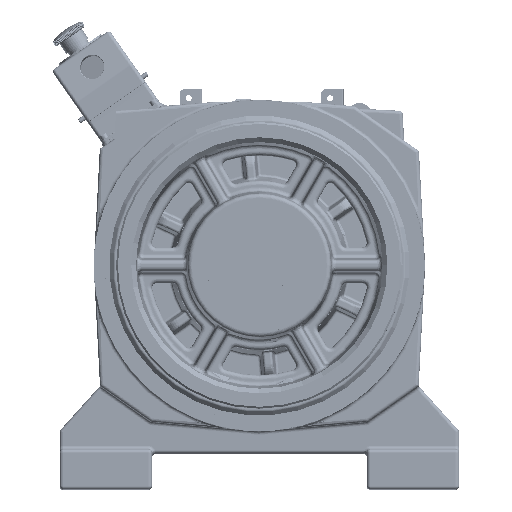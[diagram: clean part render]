
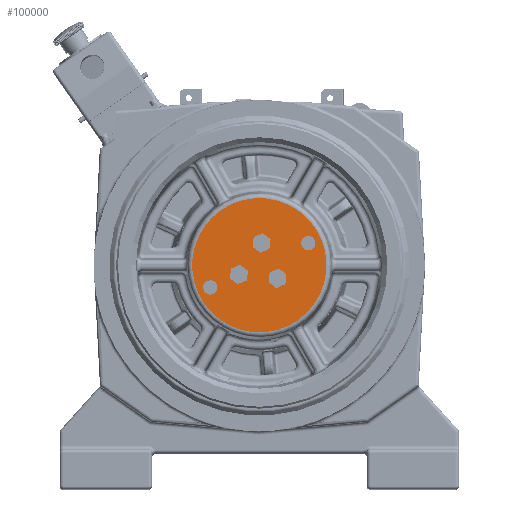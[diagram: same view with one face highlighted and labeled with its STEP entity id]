
A CAD part, top view. The second image highlights one B-rep face of the part: STEP entity #100000.
In plain terms, the highlighted planar face has unit normal (0, 0, 1).
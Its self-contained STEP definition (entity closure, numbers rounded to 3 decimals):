
#920 = CARTESIAN_POINT ( 'NONE',  ( -10.913, 235.405, 454.111 ) ) ;
#1656 = EDGE_CURVE ( 'NONE', #27240, #93101, #60338, .T. ) ;
#1860 = VERTEX_POINT ( 'NONE', #33721 ) ;
#2696 = DIRECTION ( 'NONE',  ( 0., 0., 1. ) ) ;
#5824 = DIRECTION ( 'NONE',  ( 0., 0., -1. ) ) ;
#5942 = AXIS2_PLACEMENT_3D ( 'NONE', #105826, #208541, #184840 ) ;
#6191 = CARTESIAN_POINT ( 'NONE',  ( -14.204, 242.697, 454.111 ) ) ;
#7182 = CIRCLE ( 'NONE', #129102, 8. ) ;
#7597 = EDGE_CURVE ( 'NONE', #69569, #133690, #206544, .T. ) ;
#8188 = FACE_BOUND ( 'NONE', #254417, .T. ) ;
#10527 = CARTESIAN_POINT ( 'NONE',  ( 23.479, 274.676, 454.111 ) ) ;
#11805 = AXIS2_PLACEMENT_3D ( 'NONE', #76365, #110656, #52735 ) ;
#12990 = EDGE_CURVE ( 'NONE', #93101, #27240, #223141, .T. ) ;
#15092 = EDGE_LOOP ( 'NONE', ( #245631, #208973 ) ) ;
#21111 = AXIS2_PLACEMENT_3D ( 'NONE', #106684, #187001, #247627 ) ;
#23259 = DIRECTION ( 'NONE',  ( 0., 0., -1. ) ) ;
#24685 = DIRECTION ( 'NONE',  ( 0., 0., -1. ) ) ;
#24831 = VERTEX_POINT ( 'NONE', #139563 ) ;
#27240 = VERTEX_POINT ( 'NONE', #144513 ) ;
#28935 = DIRECTION ( 'NONE',  ( 0., 0., -1. ) ) ;
#33721 = CARTESIAN_POINT ( 'NONE',  ( -32.013, 282.167, 454.111 ) ) ;
#34355 = FACE_BOUND ( 'NONE', #15092, .T. ) ;
#37992 = AXIS2_PLACEMENT_3D ( 'NONE', #219981, #238428, #177862 ) ;
#38270 = PLANE ( 'NONE',  #37992 ) ;
#39526 = CIRCLE ( 'NONE', #5942, 8. ) ;
#39830 = CARTESIAN_POINT ( 'NONE',  ( 20.189, 281.968, 454.111 ) ) ;
#48459 = CARTESIAN_POINT ( 'NONE',  ( 26.769, 267.384, 454.111 ) ) ;
#51767 = VERTEX_POINT ( 'NONE', #6191 ) ;
#52735 = DIRECTION ( 'NONE',  ( -0.411, 0.912, 0. ) ) ;
#57464 = VERTEX_POINT ( 'NONE', #225098 ) ;
#60338 = CIRCLE ( 'NONE', #249638, 8. ) ;
#64215 = DIRECTION ( 'NONE',  ( -0.411, 0.912, 0. ) ) ;
#66349 = CARTESIAN_POINT ( 'NONE',  ( 23.479, 274.676, 454.111 ) ) ;
#66776 = ORIENTED_EDGE ( 'NONE', *, *, #12990, .T. ) ;
#69569 = VERTEX_POINT ( 'NONE', #48459 ) ;
#72448 = EDGE_LOOP ( 'NONE', ( #136189, #130684 ) ) ;
#76365 = CARTESIAN_POINT ( 'NONE',  ( -85.902, 225.322, 454.111 ) ) ;
#79496 = DIRECTION ( 'NONE',  ( -0.411, 0.912, 0. ) ) ;
#81201 = DIRECTION ( 'NONE',  ( -0.411, 0.912, 0. ) ) ;
#84871 = VERTEX_POINT ( 'NONE', #226405 ) ;
#85579 = DIRECTION ( 'NONE',  ( -0.411, 0.912, 0. ) ) ;
#86195 = ORIENTED_EDGE ( 'NONE', *, *, #101026, .T. ) ;
#87400 = DIRECTION ( 'NONE',  ( -0.411, 0.912, 0. ) ) ;
#87660 = EDGE_CURVE ( 'NONE', #146230, #84871, #181743, .T. ) ;
#91908 = EDGE_CURVE ( 'NONE', #133690, #69569, #128864, .T. ) ;
#93101 = VERTEX_POINT ( 'NONE', #222775 ) ;
#100000 = ADVANCED_FACE ( 'NONE', ( #34355, #114617, #8188, #159398, #197599, #176509 ), #38270, .T. ) ;
#101026 = EDGE_CURVE ( 'NONE', #84871, #146230, #181428, .T. ) ;
#104071 = ORIENTED_EDGE ( 'NONE', *, *, #1656, .T. ) ;
#105826 = CARTESIAN_POINT ( 'NONE',  ( -28.722, 274.875, 454.111 ) ) ;
#106641 = DIRECTION ( 'NONE',  ( 0., 0., 1. ) ) ;
#106684 = CARTESIAN_POINT ( 'NONE',  ( -85.902, 225.322, 454.111 ) ) ;
#109842 = AXIS2_PLACEMENT_3D ( 'NONE', #10527, #28935, #208063 ) ;
#110656 = DIRECTION ( 'NONE',  ( 0., 0., -1. ) ) ;
#114056 = ORIENTED_EDGE ( 'NONE', *, *, #213229, .T. ) ;
#114617 = FACE_BOUND ( 'NONE', #72448, .T. ) ;
#122111 = DIRECTION ( 'NONE',  ( 0., 0., -1. ) ) ;
#123495 = ORIENTED_EDGE ( 'NONE', *, *, #253185, .T. ) ;
#124706 = DIRECTION ( 'NONE',  ( -0.411, 0.912, 0. ) ) ;
#128864 = CIRCLE ( 'NONE', #221390, 8. ) ;
#129102 = AXIS2_PLACEMENT_3D ( 'NONE', #179568, #259938, #79496 ) ;
#130684 = ORIENTED_EDGE ( 'NONE', *, *, #91908, .T. ) ;
#133690 = VERTEX_POINT ( 'NONE', #39830 ) ;
#136189 = ORIENTED_EDGE ( 'NONE', *, *, #7597, .T. ) ;
#137899 = CIRCLE ( 'NONE', #11805, 8. ) ;
#139563 = CARTESIAN_POINT ( 'NONE',  ( -25.432, 267.583, 454.111 ) ) ;
#140017 = VERTEX_POINT ( 'NONE', #183293 ) ;
#142875 = EDGE_CURVE ( 'NONE', #57464, #140017, #137899, .T. ) ;
#143857 = AXIS2_PLACEMENT_3D ( 'NONE', #167114, #207948, #147354 ) ;
#144513 = CARTESIAN_POINT ( 'NONE',  ( -50.709, 232.425, 454.111 ) ) ;
#144883 = CARTESIAN_POINT ( 'NONE',  ( -31.212, 249.999, 454.111 ) ) ;
#146230 = VERTEX_POINT ( 'NONE', #172481 ) ;
#147354 = DIRECTION ( 'NONE',  ( -0.411, 0.912, 0. ) ) ;
#151110 = ORIENTED_EDGE ( 'NONE', *, *, #185863, .T. ) ;
#159398 = FACE_BOUND ( 'NONE', #207711, .T. ) ;
#161987 = CARTESIAN_POINT ( 'NONE',  ( -31.212, 249.999, 454.111 ) ) ;
#167114 = CARTESIAN_POINT ( 'NONE',  ( -10.913, 235.405, 454.111 ) ) ;
#172481 = CARTESIAN_POINT ( 'NONE',  ( -0.366, 181.636, 454.111 ) ) ;
#176509 = FACE_OUTER_BOUND ( 'NONE', #176946, .T. ) ;
#176946 = EDGE_LOOP ( 'NONE', ( #86195, #205673 ) ) ;
#177599 = AXIS2_PLACEMENT_3D ( 'NONE', #161987, #2696, #85579 ) ;
#177862 = DIRECTION ( 'NONE',  ( -0.411, 0.912, 0. ) ) ;
#179568 = CARTESIAN_POINT ( 'NONE',  ( -28.722, 274.875, 454.111 ) ) ;
#181428 = CIRCLE ( 'NONE', #210758, 75. ) ;
#181439 = CARTESIAN_POINT ( 'NONE',  ( -53.999, 239.717, 454.111 ) ) ;
#181743 = CIRCLE ( 'NONE', #177599, 75. ) ;
#183293 = CARTESIAN_POINT ( 'NONE',  ( -89.192, 232.614, 454.111 ) ) ;
#184840 = DIRECTION ( 'NONE',  ( -0.411, 0.912, 0. ) ) ;
#185863 = EDGE_CURVE ( 'NONE', #24831, #1860, #39526, .T. ) ;
#187001 = DIRECTION ( 'NONE',  ( 0., 0., -1. ) ) ;
#194799 = EDGE_LOOP ( 'NONE', ( #114056, #123495 ) ) ;
#197599 = FACE_BOUND ( 'NONE', #194799, .T. ) ;
#197754 = VERTEX_POINT ( 'NONE', #247701 ) ;
#205263 = ORIENTED_EDGE ( 'NONE', *, *, #225761, .T. ) ;
#205673 = ORIENTED_EDGE ( 'NONE', *, *, #87660, .T. ) ;
#206544 = CIRCLE ( 'NONE', #109842, 8. ) ;
#206856 = AXIS2_PLACEMENT_3D ( 'NONE', #920, #23259, #81201 ) ;
#207711 = EDGE_LOOP ( 'NONE', ( #151110, #205263 ) ) ;
#207948 = DIRECTION ( 'NONE',  ( 0., 0., -1. ) ) ;
#208063 = DIRECTION ( 'NONE',  ( -0.411, 0.912, 0. ) ) ;
#208541 = DIRECTION ( 'NONE',  ( 0., 0., -1. ) ) ;
#208973 = ORIENTED_EDGE ( 'NONE', *, *, #251611, .T. ) ;
#210758 = AXIS2_PLACEMENT_3D ( 'NONE', #144883, #106641, #223934 ) ;
#213229 = EDGE_CURVE ( 'NONE', #197754, #51767, #240472, .T. ) ;
#218986 = AXIS2_PLACEMENT_3D ( 'NONE', #260463, #24685, #124706 ) ;
#219981 = CARTESIAN_POINT ( 'NONE',  ( -99.575, 219.153, 454.111 ) ) ;
#221390 = AXIS2_PLACEMENT_3D ( 'NONE', #66349, #5824, #87400 ) ;
#222775 = CARTESIAN_POINT ( 'NONE',  ( -57.29, 247.009, 454.111 ) ) ;
#223141 = CIRCLE ( 'NONE', #218986, 8. ) ;
#223934 = DIRECTION ( 'NONE',  ( -0.411, 0.912, 0. ) ) ;
#225098 = CARTESIAN_POINT ( 'NONE',  ( -82.612, 218.03, 454.111 ) ) ;
#225761 = EDGE_CURVE ( 'NONE', #1860, #24831, #7182, .T. ) ;
#226405 = CARTESIAN_POINT ( 'NONE',  ( -62.058, 318.362, 454.111 ) ) ;
#236158 = CIRCLE ( 'NONE', #206856, 8. ) ;
#238428 = DIRECTION ( 'NONE',  ( 0., 0., 1. ) ) ;
#240472 = CIRCLE ( 'NONE', #143857, 8. ) ;
#245631 = ORIENTED_EDGE ( 'NONE', *, *, #142875, .T. ) ;
#247627 = DIRECTION ( 'NONE',  ( -0.411, 0.912, 0. ) ) ;
#247701 = CARTESIAN_POINT ( 'NONE',  ( -7.623, 228.113, 454.111 ) ) ;
#248223 = CIRCLE ( 'NONE', #21111, 8. ) ;
#249638 = AXIS2_PLACEMENT_3D ( 'NONE', #181439, #122111, #64215 ) ;
#251611 = EDGE_CURVE ( 'NONE', #140017, #57464, #248223, .T. ) ;
#253185 = EDGE_CURVE ( 'NONE', #51767, #197754, #236158, .T. ) ;
#254417 = EDGE_LOOP ( 'NONE', ( #104071, #66776 ) ) ;
#259938 = DIRECTION ( 'NONE',  ( 0., 0., -1. ) ) ;
#260463 = CARTESIAN_POINT ( 'NONE',  ( -53.999, 239.717, 454.111 ) ) ;
